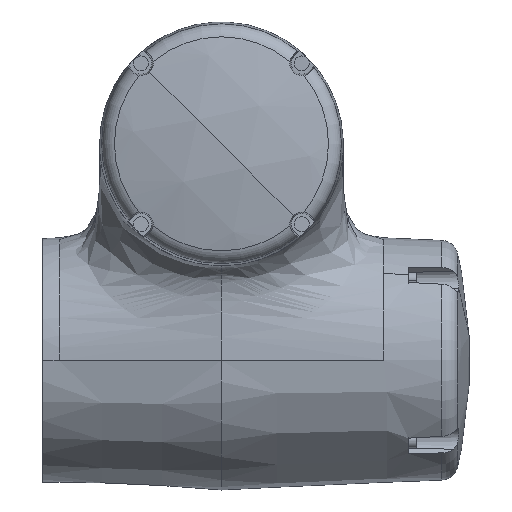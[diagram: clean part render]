
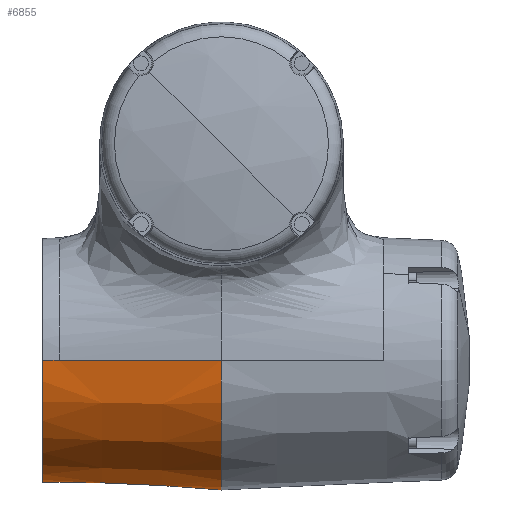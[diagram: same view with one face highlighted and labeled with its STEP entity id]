
A CAD part, left-side view. The second image highlights one B-rep face of the part: STEP entity #6855.
In plain terms, the highlighted conical face has half-angle 2.603 degrees and reference radius 45 mm.
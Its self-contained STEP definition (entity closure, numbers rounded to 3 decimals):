
#12 = CARTESIAN_POINT ( 'NONE',  ( 850.273, -57.9, 1075. ) ) ;
#50 = CIRCLE ( 'NONE', #6224, 48. ) ;
#521 = CARTESIAN_POINT ( 'NONE',  ( 759.727, -57.9, 1075. ) ) ;
#644 = VERTEX_POINT ( 'NONE', #4349 ) ;
#723 = CARTESIAN_POINT ( 'NONE',  ( 851.182, -77.9, 1075. ) ) ;
#731 = DIRECTION ( 'NONE',  ( -0.045, -0.999, 0. ) ) ;
#770 = AXIS2_PLACEMENT_3D ( 'NONE', #2241, #8716, #3180 ) ;
#1003 = CARTESIAN_POINT ( 'NONE',  ( 805., -117.9, 1075. ) ) ;
#1134 = ORIENTED_EDGE ( 'NONE', *, *, #8859, .F. ) ;
#1207 = AXIS2_PLACEMENT_3D ( 'NONE', #3075, #8942, #5784 ) ;
#1223 = VERTEX_POINT ( 'NONE', #6934 ) ;
#1227 = CARTESIAN_POINT ( 'NONE',  ( 849.989, -51.9, 1074. ) ) ;
#1295 = CARTESIAN_POINT ( 'NONE',  ( 757.423, -108.595, 1075. ) ) ;
#1408 = ORIENTED_EDGE ( 'NONE', *, *, #7901, .T. ) ;
#1577 = VECTOR ( 'NONE', #10719, 1000. ) ;
#1612 = CARTESIAN_POINT ( 'NONE',  ( 760., -51.9, 1075. ) ) ;
#1766 = B_SPLINE_CURVE_WITH_KNOTS ( 'NONE', 3,
 ( #521, #3908, #2129, #2017, #2185, #5500, #8880, #5553, #7274, #1295, #8935, #3849 ),
 .UNSPECIFIED., .F., .F.,
 ( 4, 2, 2, 2, 2, 4 ),
 ( 0., 1.301, 2.601, 5.202, 7.803, 10.404 ),
 .UNSPECIFIED. ) ;
#1903 = VERTEX_POINT ( 'NONE', #12 ) ;
#2017 = CARTESIAN_POINT ( 'NONE',  ( 759.228, -68.894, 1075. ) ) ;
#2129 = CARTESIAN_POINT ( 'NONE',  ( 759.474, -63.467, 1075. ) ) ;
#2154 = CARTESIAN_POINT ( 'NONE',  ( 838.941, -117.9, 1041.059 ) ) ;
#2185 = CARTESIAN_POINT ( 'NONE',  ( 759.106, -71.56, 1075. ) ) ;
#2241 = CARTESIAN_POINT ( 'NONE',  ( 805., -51.9, 1075. ) ) ;
#2365 = LINE ( 'NONE', #7392, #1577 ) ;
#2680 = CARTESIAN_POINT ( 'NONE',  ( 805., -52.9, 1075. ) ) ;
#2881 = CIRCLE ( 'NONE', #8549, 48. ) ;
#2975 = VERTEX_POINT ( 'NONE', #6746 ) ;
#3075 = CARTESIAN_POINT ( 'NONE',  ( 805., -51.9, 1075. ) ) ;
#3099 = CARTESIAN_POINT ( 'NONE',  ( 759.727, -57.9, 1075. ) ) ;
#3180 = DIRECTION ( 'NONE',  ( -1., 0., 0. ) ) ;
#3452 = ORIENTED_EDGE ( 'NONE', *, *, #6778, .F. ) ;
#3849 = CARTESIAN_POINT ( 'NONE',  ( 757., -117.9, 1075. ) ) ;
#3856 = EDGE_CURVE ( 'NONE', #10587, #644, #9373, .T. ) ;
#3908 = CARTESIAN_POINT ( 'NONE',  ( 759.599, -60.707, 1075. ) ) ;
#4071 = AXIS2_PLACEMENT_3D ( 'NONE', #2680, #6048, #8809 ) ;
#4104 = CARTESIAN_POINT ( 'NONE',  ( 852.091, -97.9, 1075. ) ) ;
#4218 = LINE ( 'NONE', #1612, #7998 ) ;
#4349 = CARTESIAN_POINT ( 'NONE',  ( 850.034, -52.9, 1074. ) ) ;
#4385 = DIRECTION ( 'NONE',  ( 0., -1., 0. ) ) ;
#4516 = VERTEX_POINT ( 'NONE', #6759 ) ;
#4647 = CARTESIAN_POINT ( 'NONE',  ( 849.989, -51.9, 1074. ) ) ;
#4919 = CARTESIAN_POINT ( 'NONE',  ( 850.045, -52.9, 1075. ) ) ;
#5490 = CARTESIAN_POINT ( 'NONE',  ( 850.019, -52.567, 1074. ) ) ;
#5500 = CARTESIAN_POINT ( 'NONE',  ( 758.749, -79.429, 1075. ) ) ;
#5553 = CARTESIAN_POINT ( 'NONE',  ( 758.07, -94.354, 1075. ) ) ;
#5558 = ORIENTED_EDGE ( 'NONE', *, *, #3856, .F. ) ;
#5619 = CARTESIAN_POINT ( 'NONE',  ( 805., -117.9, 1075. ) ) ;
#5784 = DIRECTION ( 'NONE',  ( -1., 0., 0. ) ) ;
#6048 = DIRECTION ( 'NONE',  ( 0., 1., 0. ) ) ;
#6224 = AXIS2_PLACEMENT_3D ( 'NONE', #5619, #7342, #10778 ) ;
#6318 = CARTESIAN_POINT ( 'NONE',  ( 850.034, -52.9, 1074. ) ) ;
#6401 = B_SPLINE_CURVE_WITH_KNOTS ( 'NONE', 3,
 ( #10137, #723, #4104, #8470 ),
 .UNSPECIFIED., .F., .F.,
 ( 4, 4 ),
 ( 0., 1. ),
 .UNSPECIFIED. ) ;
#6746 = CARTESIAN_POINT ( 'NONE',  ( 853., -117.9, 1075. ) ) ;
#6759 = CARTESIAN_POINT ( 'NONE',  ( 760., -51.9, 1075. ) ) ;
#6778 = EDGE_CURVE ( 'NONE', #7667, #1223, #1766, .T. ) ;
#6855 = ADVANCED_FACE ( 'NONE', ( #9830 ), #10477, .T. ) ;
#6934 = CARTESIAN_POINT ( 'NONE',  ( 757., -117.9, 1075. ) ) ;
#7274 = CARTESIAN_POINT ( 'NONE',  ( 757.853, -99.141, 1075. ) ) ;
#7309 = EDGE_CURVE ( 'NONE', #9510, #2975, #2881, .T. ) ;
#7342 = DIRECTION ( 'NONE',  ( 0., -1., 0. ) ) ;
#7392 = CARTESIAN_POINT ( 'NONE',  ( 850., -51.9, 1075. ) ) ;
#7667 = VERTEX_POINT ( 'NONE', #3099 ) ;
#7756 = CIRCLE ( 'NONE', #1207, 45. ) ;
#7806 = DIRECTION ( 'NONE',  ( 1., 0., 0. ) ) ;
#7901 = EDGE_CURVE ( 'NONE', #1903, #2975, #6401, .T. ) ;
#7998 = VECTOR ( 'NONE', #731, 1000. ) ;
#8125 = EDGE_CURVE ( 'NONE', #1223, #9510, #50, .T. ) ;
#8470 = CARTESIAN_POINT ( 'NONE',  ( 853., -117.9, 1075. ) ) ;
#8520 = B_SPLINE_CURVE_WITH_KNOTS ( 'NONE', 3,
 ( #6318, #5490, #9653, #1227 ),
 .UNSPECIFIED., .F., .F.,
 ( 4, 4 ),
 ( 0.008, 0.009 ),
 .UNSPECIFIED. ) ;
#8549 = AXIS2_PLACEMENT_3D ( 'NONE', #1003, #4385, #7806 ) ;
#8716 = DIRECTION ( 'NONE',  ( 0., -1., 0. ) ) ;
#8809 = DIRECTION ( 'NONE',  ( 1., 0., 0. ) ) ;
#8859 = EDGE_CURVE ( 'NONE', #4516, #7667, #4218, .T. ) ;
#8880 = CARTESIAN_POINT ( 'NONE',  ( 758.518, -84.501, 1075. ) ) ;
#8935 = CARTESIAN_POINT ( 'NONE',  ( 757.211, -113.257, 1075. ) ) ;
#8942 = DIRECTION ( 'NONE',  ( 0., -1., 0. ) ) ;
#9040 = ORIENTED_EDGE ( 'NONE', *, *, #9768, .T. ) ;
#9227 = ORIENTED_EDGE ( 'NONE', *, *, #7309, .F. ) ;
#9373 = CIRCLE ( 'NONE', #4071, 45.045 ) ;
#9510 = VERTEX_POINT ( 'NONE', #2154 ) ;
#9653 = CARTESIAN_POINT ( 'NONE',  ( 850.004, -52.233, 1074. ) ) ;
#9755 = EDGE_CURVE ( 'NONE', #10587, #1903, #2365, .T. ) ;
#9768 = EDGE_CURVE ( 'NONE', #4516, #10699, #7756, .T. ) ;
#9830 = FACE_OUTER_BOUND ( 'NONE', #9986, .T. ) ;
#9945 = ORIENTED_EDGE ( 'NONE', *, *, #10247, .F. ) ;
#9986 = EDGE_LOOP ( 'NONE', ( #5558, #10586, #1408, #9227, #10451, #3452, #1134, #9040, #9945 ) ) ;
#10137 = CARTESIAN_POINT ( 'NONE',  ( 850.273, -57.9, 1075. ) ) ;
#10247 = EDGE_CURVE ( 'NONE', #644, #10699, #8520, .T. ) ;
#10451 = ORIENTED_EDGE ( 'NONE', *, *, #8125, .F. ) ;
#10477 = CONICAL_SURFACE ( 'NONE', #770, 45., 0.045 ) ;
#10586 = ORIENTED_EDGE ( 'NONE', *, *, #9755, .T. ) ;
#10587 = VERTEX_POINT ( 'NONE', #4919 ) ;
#10699 = VERTEX_POINT ( 'NONE', #4647 ) ;
#10719 = DIRECTION ( 'NONE',  ( 0.045, -0.999, 0. ) ) ;
#10778 = DIRECTION ( 'NONE',  ( 1., 0., 0. ) ) ;
